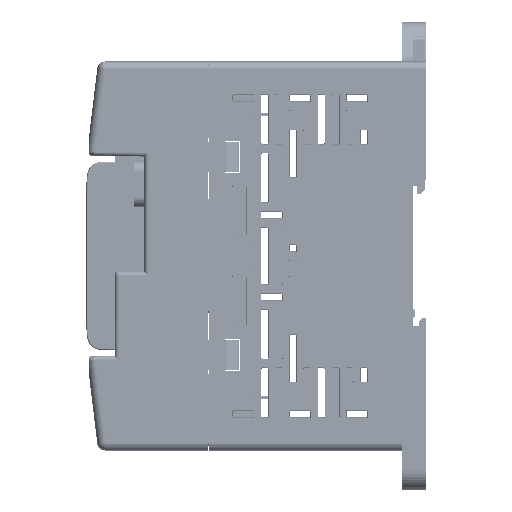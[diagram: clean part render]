
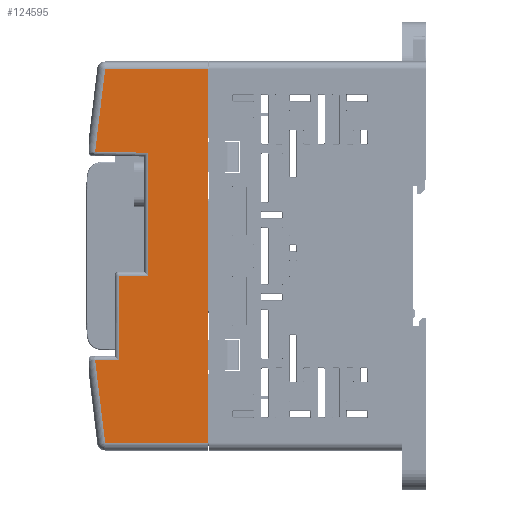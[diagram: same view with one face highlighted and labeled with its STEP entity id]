
A CAD part, left-side view. The second image highlights one B-rep face of the part: STEP entity #124595.
In plain terms, the highlighted planar face has unit normal (-1, 0, 0).
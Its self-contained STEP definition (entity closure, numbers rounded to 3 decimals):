
#102380=DIRECTION('',(0.,0.,1.));
#102381=VECTOR('',#102380,21.283);
#102382=CARTESIAN_POINT('',(-47.,74.45,-26.283));
#102383=LINE('',#102382,#102381);
#102384=DIRECTION('',(0.,1.,0.));
#102385=VECTOR('',#102384,7.5);
#102386=CARTESIAN_POINT('',(-47.,66.95,-5.));
#102387=LINE('',#102386,#102385);
#102388=DIRECTION('',(0.,0.,-1.));
#102389=VECTOR('',#102388,31.152);
#102390=CARTESIAN_POINT('',(-47.,66.95,26.152));
#102391=LINE('',#102390,#102389);
#102392=DIRECTION('',(0.,0.12,-0.993));
#102393=VECTOR('',#102392,21.016);
#102394=CARTESIAN_POINT('',(-47.,77.878,47.25));
#102395=LINE('',#102394,#102393);
#102396=DIRECTION('',(0.,-1.,0.));
#102397=VECTOR('',#102396,26.078);
#102398=CARTESIAN_POINT('',(-47.,77.878,47.25));
#102399=LINE('',#102398,#102397);
#102400=DIRECTION('',(0.,0.,1.));
#102401=VECTOR('',#102400,94.5);
#102402=CARTESIAN_POINT('',(-47.,51.8,-47.25));
#102403=LINE('',#102402,#102401);
#102404=DIRECTION('',(0.,-1.,0.));
#102405=VECTOR('',#102404,26.078);
#102406=CARTESIAN_POINT('',(-47.,77.878,-47.25));
#102407=LINE('',#102406,#102405);
#102408=DIRECTION('',(0.,-0.12,
-0.993));
#102409=VECTOR('',#102408,21.016);
#102410=CARTESIAN_POINT('',(-47.,80.407,
-26.387));
#102411=LINE('',#102410,#102409);
#102423=DIRECTION('',(0.,1.,-0.017));
#102424=VECTOR('',#102423,5.958);
#102425=CARTESIAN_POINT('',(-47.,74.45,-26.283));
#102426=LINE('',#102425,#102424);
#109952=DIRECTION('',(0.,-1.,
-0.017));
#109953=VECTOR('',#109952,13.459);
#109954=CARTESIAN_POINT('',(-47.,80.407,
26.387));
#109955=LINE('',#109954,#109953);
#115940=CARTESIAN_POINT('',(-47.,80.407,
26.387));
#116228=CARTESIAN_POINT('',(-47.,80.407,
-26.387));
#116757=CARTESIAN_POINT('',(-47.,51.8,47.25));
#116759=VERTEX_POINT('',#116757);
#116764=CARTESIAN_POINT('',(-47.,51.8,-47.25));
#116766=VERTEX_POINT('',#116764);
#116772=CARTESIAN_POINT('',(-47.,77.878,47.25));
#116773=VERTEX_POINT('',#116772);
#116776=CARTESIAN_POINT('',(-47.,77.878,-47.25));
#116777=VERTEX_POINT('',#116776);
#116782=VERTEX_POINT('',#115940);
#116800=VERTEX_POINT('',#116228);
#120989=CARTESIAN_POINT('',(-47.,74.45,-26.283));
#120990=CARTESIAN_POINT('',(-47.,74.45,-5.));
#120991=VERTEX_POINT('',#120989);
#120992=VERTEX_POINT('',#120990);
#120999=CARTESIAN_POINT('',(-47.,66.95,-5.));
#121000=VERTEX_POINT('',#120999);
#121005=CARTESIAN_POINT('',(-47.,66.95,26.152));
#121006=VERTEX_POINT('',#121005);
#124569=CARTESIAN_POINT('',(-47.,0.,-49.25));
#124570=DIRECTION('',(-1.,0.,0.));
#124571=DIRECTION('',(0.,0.,1.));
#124572=AXIS2_PLACEMENT_3D('',#124569,#124570,#124571);
#124573=PLANE('',#124572);
#124575=ORIENTED_EDGE('',*,*,#124574,.T.);
#124576=ORIENTED_EDGE('',*,*,#124560,.F.);
#124578=ORIENTED_EDGE('',*,*,#124577,.F.);
#124580=ORIENTED_EDGE('',*,*,#124579,.F.);
#124582=ORIENTED_EDGE('',*,*,#124581,.F.);
#124584=ORIENTED_EDGE('',*,*,#124583,.T.);
#124586=ORIENTED_EDGE('',*,*,#124585,.F.);
#124588=ORIENTED_EDGE('',*,*,#124587,.F.);
#124590=ORIENTED_EDGE('',*,*,#124589,.F.);
#124592=ORIENTED_EDGE('',*,*,#124591,.F.);
#124593=EDGE_LOOP('',(#124575,#124576,#124578,#124580,#124582,#124584,#124586,
#124588,#124590,#124592));
#124594=FACE_OUTER_BOUND('',#124593,.F.);
#124595=ADVANCED_FACE('',(#124594),#124573,.T.);
#124560=EDGE_CURVE('',#121000,#120992,#102387,.T.);
#124574=EDGE_CURVE('',#120991,#120992,#102383,.T.);
#124577=EDGE_CURVE('',#121006,#121000,#102391,.T.);
#124579=EDGE_CURVE('',#116782,#121006,#109955,.T.);
#124581=EDGE_CURVE('',#116773,#116782,#102395,.T.);
#124583=EDGE_CURVE('',#116773,#116759,#102399,.T.);
#124585=EDGE_CURVE('',#116766,#116759,#102403,.T.);
#124587=EDGE_CURVE('',#116777,#116766,#102407,.T.);
#124589=EDGE_CURVE('',#116800,#116777,#102411,.T.);
#124591=EDGE_CURVE('',#120991,#116800,#102426,.T.);
